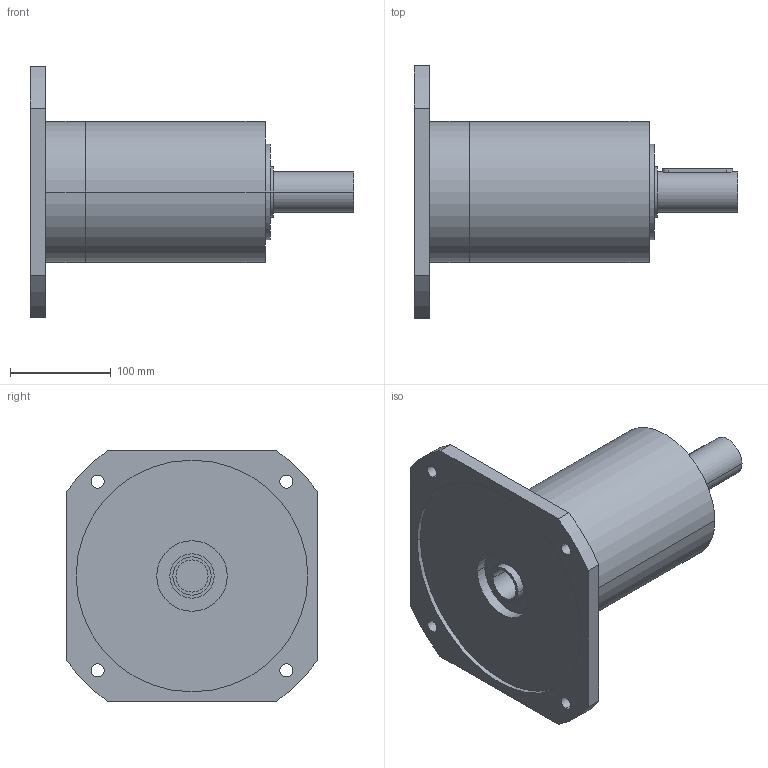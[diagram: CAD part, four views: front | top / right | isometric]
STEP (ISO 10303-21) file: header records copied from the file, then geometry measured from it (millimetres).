
FILE_DESCRIPTION(('CoCreate Modeling STEP Export'),'2;1');
FILE_NAME('GPR150_ig-9-12-16-20-28-35_40_B14_32_P07.stp','2014-08-19T17:04:01',(''),(''),'CoCreate Modeling STEP processor for AP214 (Solid Model)','CoCreate Modeling 16.00C 25-Feb-2009 (C) Parametric Technology GmbH','');
FILE_SCHEMA(('AUTOMOTIVE_DESIGN { 1 0 10303 214 1 1 1 1 }'));
Length unit declared in the file: millimetre
Products named in the file (2): GPR150_ig-9-12-16-20-28-35_40_B14_32_P07
Assembly tree (1 placements, depth 2):
  GPR150_ig-9-12-16-20-28-35_40_B14_32_P07
    GPR150_ig-9-12-16-20-28-35_40_B14_32_P07
Bounding box: 321 x 250 x 250 mm (x, y, z)
Volume: 4089300.8 mm3; surface area: 261924.7 mm2
Topology: 1 solids, 1 shells, 73 faces, 195 edges, 137 vertices
Faces by surface type: cylinder 44, plane 23, cone 6
Entity records: 2033 total; most frequent: CARTESIAN_POINT 395, ORIENTED_EDGE 386, DIRECTION 272, EDGE_CURVE 193, VERTEX_POINT 137, AXIS2_PLACEMENT_3D 102, EDGE_LOOP 96, FACE_OUTER_BOUND 73
